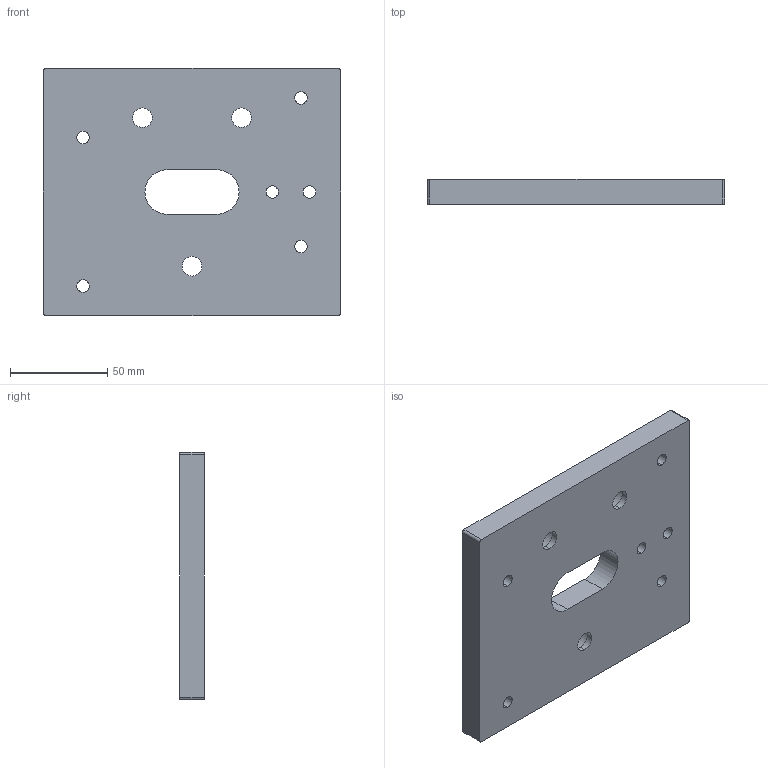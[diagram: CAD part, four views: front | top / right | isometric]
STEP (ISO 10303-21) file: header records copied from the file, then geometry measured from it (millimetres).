
FILE_DESCRIPTION (( 'STEP AP214' ), '1' );
FILE_NAME ('Stripprt Plate.STEP', '2020-05-25T15:56:15', ( '' ), ( '' ), 'SwSTEP 2.0', 'SolidWorks 2020', '' );
FILE_SCHEMA (( 'AUTOMOTIVE_DESIGN' ));
Length unit declared in the file: inch
Products named in the file (1): Stripprt Plate
Bounding box: 152.4 x 12.7 x 127 mm (x, y, z)
Volume: 223728.5 mm3; surface area: 47524.1 mm2
Topology: 1 solids, 1 shells, 47 faces, 120 edges, 78 vertices
Faces by surface type: cylinder 30, plane 11, cone 6
Entity records: 1532 total; most frequent: DIRECTION 282, CARTESIAN_POINT 246, ORIENTED_EDGE 240, EDGE_CURVE 120, AXIS2_PLACEMENT_3D 114, VERTEX_POINT 78, EDGE_LOOP 70, CIRCLE 66
